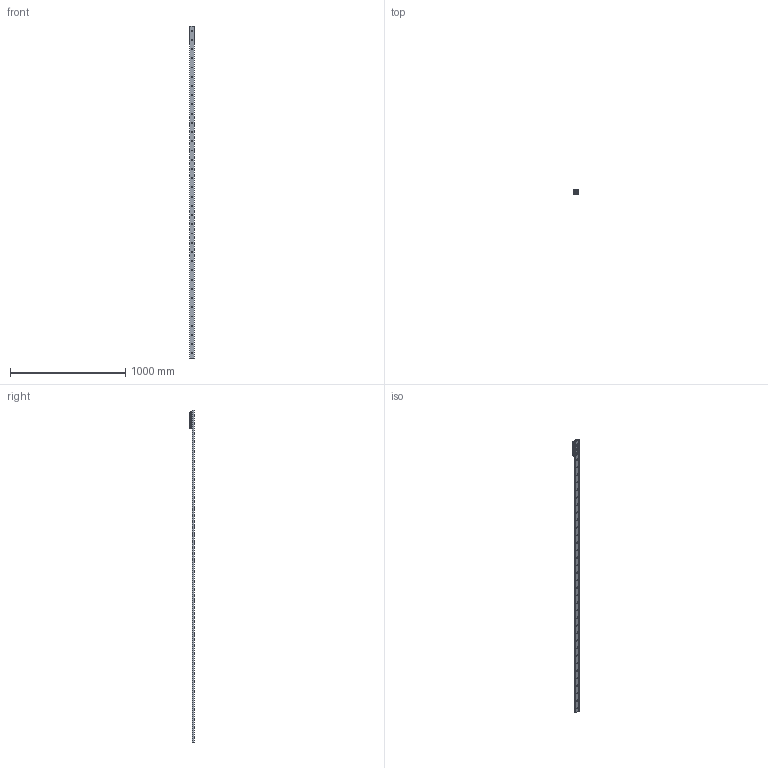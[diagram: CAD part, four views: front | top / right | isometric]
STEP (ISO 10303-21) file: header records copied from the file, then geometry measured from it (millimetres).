
FILE_DESCRIPTION( ( 'STEP AP214' ), '1' );
FILE_NAME( 'p:/temp/worker_8/temp/exporttempdir_3840_168_TYuhD/format_1/TGV-02880_1_RV43G-3.stp', '2021-05-14T19:21:13', ( 'License CC BY-ND 4.0' ), ( 'CADENAS' ), ' ', 'PARTsolutions', ' ' );
FILE_SCHEMA( ( 'AUTOMOTIVE_DESIGN { 1 0 10303 214 1 1 1 1 }' ) );
Length unit declared in the file: millimetre
Products named in the file (6): TGV-02880/1/RV43G-3; _TGV43-2880-(3-1); _RVG43-3-slider; _RGNV43R; _RGAV43R; _WR43G-01
Assembly tree (7 placements, depth 2):
  TGV-02880/1/RV43G-3
    _TGV43-2880-(3-1)
    _RVG43-3-slider
    _RGNV43R  x2
    _RGAV43R
    _WR43G-01  x2
Bounding box: 43 x 37 x 2880 mm (x, y, z)
Volume: 1175176.9 mm3; surface area: 473457 mm2
Topology: 7 solids, 7 shells, 1113 faces, 2904 edges, 1887 vertices
Faces by surface type: plane 663, cylinder 332, cone 75, bspline 34, torus 9
Full cylindrical faces by diameter (mm): 1.76 x4, 3 x8, 6 x4, 6.647 x4, 6.8 x3, 8 x3, 8.5 x36, 11 x11, 15 x6, 15.5 x1, 18.98 x2, 19 x1, 31.4 x6
Entity records: 27013 total; most frequent: CARTESIAN_POINT 4214, DIRECTION 3627, ORIENTED_EDGE 3280, EDGE_CURVE 1640, AXIS2_PLACEMENT_3D 1410, VERTEX_POINT 1159, EDGE_LOOP 1013, LINE 807
